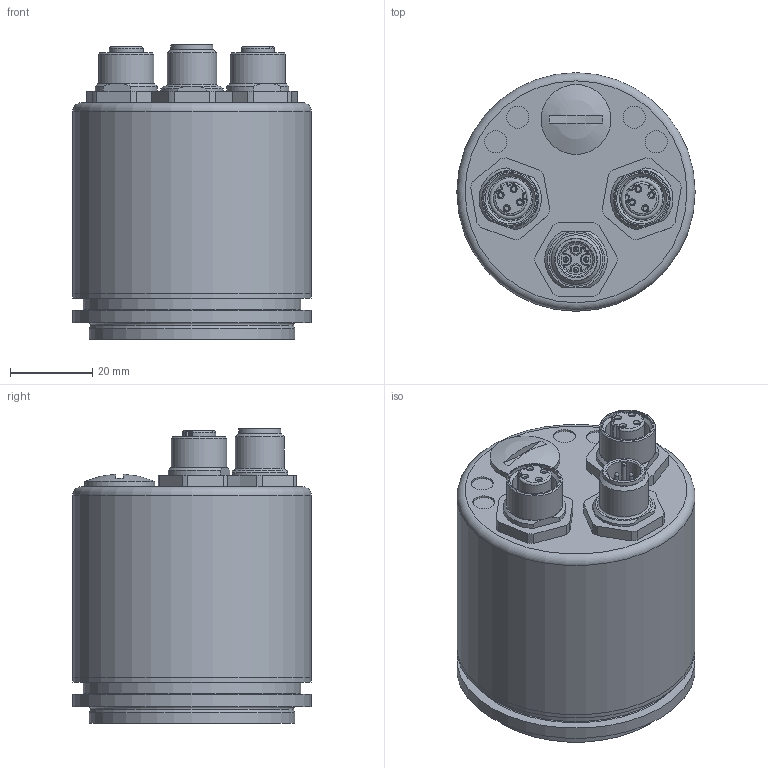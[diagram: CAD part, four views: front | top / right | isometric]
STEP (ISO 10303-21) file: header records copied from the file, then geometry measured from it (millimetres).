
FILE_DESCRIPTION( ( 'Unknown' ), '1' );
FILE_NAME( 'Z:/PJ-RD-MC/10601626_MAGRES_4/20__Produktmanagement/Datenblatt/Vereinfachte Modelle und DAB-Zeichnungen/Februar 2017/58/Kit/Ethernet/EAM580-KYC.7Yxxx.xxxxx.A.stp', 'Unknown', ( 'Unknown' ), ( 'Unknown' ), 'PSStep 15.0.49', 'Unknown', ' ' );
FILE_SCHEMA( ( 'AUTOMOTIVE_DESIGN { 1 0 10303 214 1 1 1 1 }' ) );
Length unit declared in the file: millimetre
Products named in the file (11): 11160291 vereinfacht; 11160294 vereinfacht; 10166225; 58 Kit BoMo 12 vereinfacht; 11160285_vereinfacht; 58 Haube Ethernet axial vereinfacht; 11164481 vereinfacht; 10124678; RSH4-012P4_8067A29 vereinfacht; RKH 4D_0_1 vereinfacht; Assem1
Assembly tree (12 placements, depth 4):
  Assem1
    58 Kit BoMo 12 vereinfacht
      11160285_vereinfacht
      11160291 vereinfacht
        11160294 vereinfacht
        10166225  x2
    58 Haube Ethernet axial vereinfacht
      11164481 vereinfacht
      10124678
      RSH4-012P4_8067A29 vereinfacht
      RKH 4D_0_1 vereinfacht  x2
Bounding box: 58 x 58 x 71.6 mm (x, y, z)
Volume: 134160.5 mm3; surface area: 39669 mm2
Topology: 9 solids, 11 shells, 425 faces, 948 edges, 600 vertices
Faces by surface type: cylinder 168, plane 156, torus 41, cone 35, bspline 24, sphere 1
Full cylindrical faces by diameter (mm): 1 x4, 1.1 x8, 1.3 x4, 1.9 x2, 2.459 x6, 3.242 x6, 4 x4, 5.4 x4, 8.3 x1, 8.6 x2, 9.338 x2, 10 x1, 10.9 x1, 10.92 x2, 12 x2, 12.2 x2, 12.4 x1, 12.5 x2, 13.5 x2, 15.2 x2, 15.8 x1, 17 x1, 20 x1, 36 x1, 50 x1, 53 x1, 56 x2, 58 x3
Entity records: 12391 total; most frequent: CARTESIAN_POINT 3290, DIRECTION 1473, ORIENTED_EDGE 1124, AXIS2_PLACEMENT_3D 638, EDGE_CURVE 562, EDGE_LOOP 460, VERTEX_POINT 411, FACE_OUTER_BOUND 391
